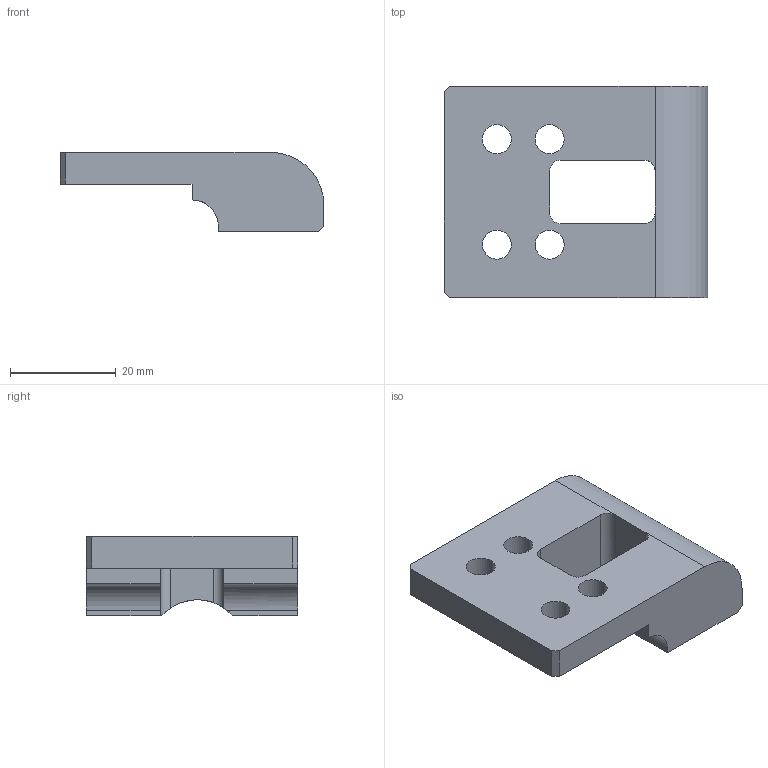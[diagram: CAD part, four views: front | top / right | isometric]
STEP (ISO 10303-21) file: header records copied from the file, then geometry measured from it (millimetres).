
FILE_DESCRIPTION (( 'STEP AP214' ), '1' );
FILE_NAME ('GZ26.09_V1导向压块.STEP', '2021-05-06T03:43:44', ( '微软中国' ), ( 'Microsoft' ), 'SwSTEP 2.0', 'SolidWorks 2017', '' );
FILE_SCHEMA (( 'AUTOMOTIVE_DESIGN' ));
Length unit declared in the file: millimetre
Products named in the file (1): GZ26.09_V1絳砃揤輸
Bounding box: 50 x 40 x 15 mm (x, y, z)
Volume: 15543.8 mm3; surface area: 6173.2 mm2
Topology: 1 solids, 1 shells, 36 faces, 106 edges, 70 vertices
Faces by surface type: plane 20, cylinder 16
Entity records: 1279 total; most frequent: CARTESIAN_POINT 244, ORIENTED_EDGE 212, DIRECTION 207, EDGE_CURVE 106, VERTEX_POINT 70, AXIS2_PLACEMENT_3D 69, LINE 69, VECTOR 69
